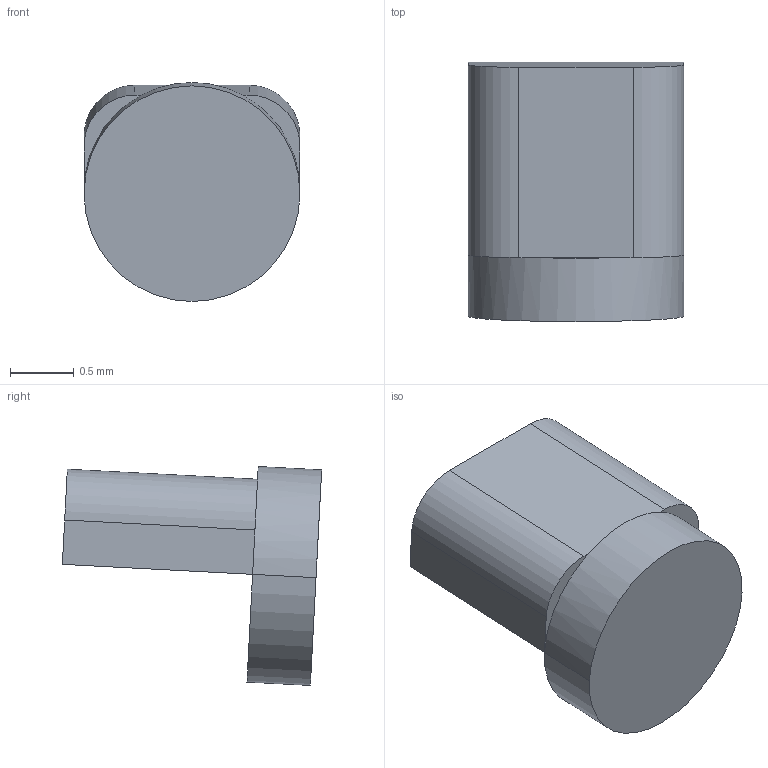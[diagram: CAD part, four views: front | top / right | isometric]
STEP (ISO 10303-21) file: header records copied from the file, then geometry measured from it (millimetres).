
FILE_DESCRIPTION((''),'2;1');
FILE_NAME('QT18','2021-08-23T15:29:17',('NING MEI'),(''),'CREO PARAMETRIC BY PTC INC, 2016510','CREO PARAMETRIC BY PTC INC, 2016510','');
FILE_SCHEMA(('CONFIG_CONTROL_DESIGN','SHAPE_APPEARANCE_LAYERS_GROUPS'));
Length unit declared in the file: millimetre
Products named in the file (1): QT18
Bounding box: 1.7 x 2.04 x 1.72 mm (x, y, z)
Volume: 2.9 mm3; surface area: 14.3 mm2
Topology: 1 solids, 1 shells, 14 faces, 28 edges, 16 vertices
Faces by surface type: plane 10, cylinder 4
Entity records: 429 total; most frequent: DIRECTION 66, CARTESIAN_POINT 58, ORIENTED_EDGE 56, COLOUR_RGB 29, EDGE_CURVE 28, AXIS2_PLACEMENT_3D 24, VECTOR 18, LINE 18
